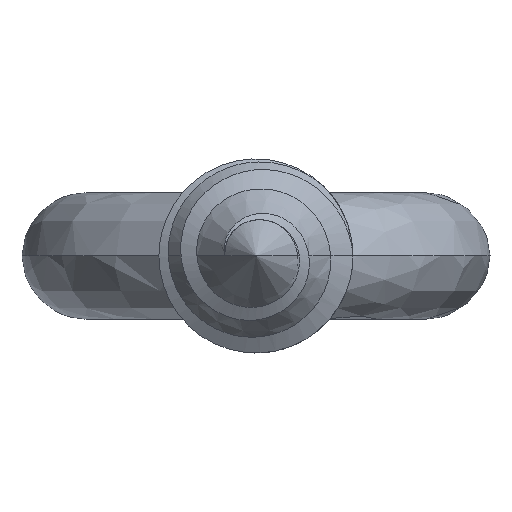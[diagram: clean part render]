
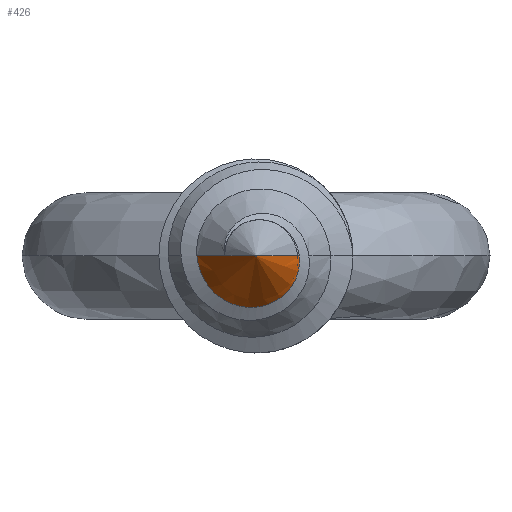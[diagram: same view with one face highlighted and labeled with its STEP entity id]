
A CAD part, front view. The second image highlights one B-rep face of the part: STEP entity #426.
In plain terms, the highlighted conical face has half-angle 34 degrees and reference radius 2.264 mm.
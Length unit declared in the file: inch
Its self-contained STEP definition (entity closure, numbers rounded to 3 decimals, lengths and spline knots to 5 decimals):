
#175 = B_SPLINE_CURVE_WITH_KNOTS ( 'NONE', 3,
 ( #2153, #3239, #1570, #2676, #5900, #5372, #3263, #3812, #554, #4361, #4902, #2741, #6534, #4989, #2848, #6622, #6644, #4405 ),
 .UNSPECIFIED., .F., .F.,
 ( 4, 2, 2, 2, 2, 2, 2, 2, 4 ),
 ( 0.00465, 0.0051, 0.00554, 0.00599, 0.00644, 0.00688, 0.00733, 0.00778, 0.00822 ),
 .UNSPECIFIED. ) ;
#347 = LINE ( 'NONE', #4025, #3415 ) ;
#426 = ADVANCED_FACE ( 'NONE', ( #2910 ), #1448, .T. ) ;
#554 = CARTESIAN_POINT ( 'NONE',  ( -0.01111, -0.3711, -0.04452 ) ) ;
#776 = VERTEX_POINT ( 'NONE', #5422 ) ;
#853 = CARTESIAN_POINT ( 'NONE',  ( -0.05128, -0.36255, 0. ) ) ;
#1007 = VERTEX_POINT ( 'NONE', #4394 ) ;
#1231 = EDGE_CURVE ( 'NONE', #6263, #1007, #2669, .T. ) ;
#1372 = VERTEX_POINT ( 'NONE', #853 ) ;
#1448 = CONICAL_SURFACE ( 'NONE', #5620, 0.08913, 0.593 ) ;
#1570 = CARTESIAN_POINT ( 'NONE',  ( -0.04928, -0.36405, -0.01153 ) ) ;
#2153 = CARTESIAN_POINT ( 'NONE',  ( -0.05128, -0.36255, 0. ) ) ;
#2335 = EDGE_CURVE ( 'NONE', #1007, #776, #347, .T. ) ;
#2369 = ORIENTED_EDGE ( 'NONE', *, *, #3481, .T. ) ;
#2551 = EDGE_LOOP ( 'NONE', ( #3885, #3466, #2369, #6927 ) ) ;
#2669 = CIRCLE ( 'NONE', #4437, 0.00073 ) ;
#2676 = CARTESIAN_POINT ( 'NONE',  ( -0.0443, -0.36563, -0.0222 ) ) ;
#2741 = CARTESIAN_POINT ( 'NONE',  ( 0.0173, -0.37533, -0.03942 ) ) ;
#2848 = CARTESIAN_POINT ( 'NONE',  ( 0.03364, -0.37899, -0.02276 ) ) ;
#2910 = FACE_OUTER_BOUND ( 'NONE', #2551, .T. ) ;
#3064 = VECTOR ( 'NONE', #4379, 39.37008 ) ;
#3239 = CARTESIAN_POINT ( 'NONE',  ( -0.05079, -0.36327, -0.00587 ) ) ;
#3263 = CARTESIAN_POINT ( 'NONE',  ( -0.02768, -0.36865, -0.03864 ) ) ;
#3413 = CARTESIAN_POINT ( 'NONE',  ( 0., -0.4375, 0. ) ) ;
#3415 = VECTOR ( 'NONE', #4634, 39.37008 ) ;
#3466 = ORIENTED_EDGE ( 'NONE', *, *, #1231, .F. ) ;
#3481 = EDGE_CURVE ( 'NONE', #6263, #1372, #5369, .T. ) ;
#3812 = CARTESIAN_POINT ( 'NONE',  ( -0.01691, -0.37023, -0.04328 ) ) ;
#3885 = ORIENTED_EDGE ( 'NONE', *, *, #2335, .F. ) ;
#3940 = DIRECTION ( 'NONE',  ( 0., 1., 0. ) ) ;
#4012 = DIRECTION ( 'NONE',  ( -1., 0., 0. ) ) ;
#4025 = CARTESIAN_POINT ( 'NONE',  ( 0.08913, -0.30644, 0. ) ) ;
#4203 = EDGE_CURVE ( 'NONE', #1372, #776, #175, .T. ) ;
#4361 = CARTESIAN_POINT ( 'NONE',  ( 0.00057, -0.37283, -0.04473 ) ) ;
#4379 = DIRECTION ( 'NONE',  ( -0.559, 0.829, 0. ) ) ;
#4394 = CARTESIAN_POINT ( 'NONE',  ( 0.00073, -0.4375, 0. ) ) ;
#4405 = CARTESIAN_POINT ( 'NONE',  ( 0.03766, -0.38275, 0. ) ) ;
#4437 = AXIS2_PLACEMENT_3D ( 'NONE', #3413, #5093, #6194 ) ;
#4634 = DIRECTION ( 'NONE',  ( 0.559, 0.829, 0. ) ) ;
#4902 = CARTESIAN_POINT ( 'NONE',  ( 0.00647, -0.37368, -0.04368 ) ) ;
#4989 = CARTESIAN_POINT ( 'NONE',  ( 0.03046, -0.37801, -0.02784 ) ) ;
#5093 = DIRECTION ( 'NONE',  ( 0., -1., 0. ) ) ;
#5369 = LINE ( 'NONE', #5440, #3064 ) ;
#5372 = CARTESIAN_POINT ( 'NONE',  ( -0.03256, -0.36792, -0.03529 ) ) ;
#5422 = CARTESIAN_POINT ( 'NONE',  ( 0.03766, -0.38275, 0. ) ) ;
#5440 = CARTESIAN_POINT ( 'NONE',  ( -0.08913, -0.30644, 0. ) ) ;
#5595 = CARTESIAN_POINT ( 'NONE',  ( 0., -0.30644, 0. ) ) ;
#5620 = AXIS2_PLACEMENT_3D ( 'NONE', #5595, #3940, #4012 ) ;
#5900 = CARTESIAN_POINT ( 'NONE',  ( -0.04092, -0.3664, -0.02703 ) ) ;
#6194 = DIRECTION ( 'NONE',  ( 1., 0., 0. ) ) ;
#6263 = VERTEX_POINT ( 'NONE', #6603 ) ;
#6534 = CARTESIAN_POINT ( 'NONE',  ( 0.02235, -0.37617, -0.03614 ) ) ;
#6603 = CARTESIAN_POINT ( 'NONE',  ( -0.00073, -0.4375, 0. ) ) ;
#6622 = CARTESIAN_POINT ( 'NONE',  ( 0.03755, -0.38088, -0.01176 ) ) ;
#6644 = CARTESIAN_POINT ( 'NONE',  ( 0.03831, -0.38179, -0.00584 ) ) ;
#6927 = ORIENTED_EDGE ( 'NONE', *, *, #4203, .T. ) ;
